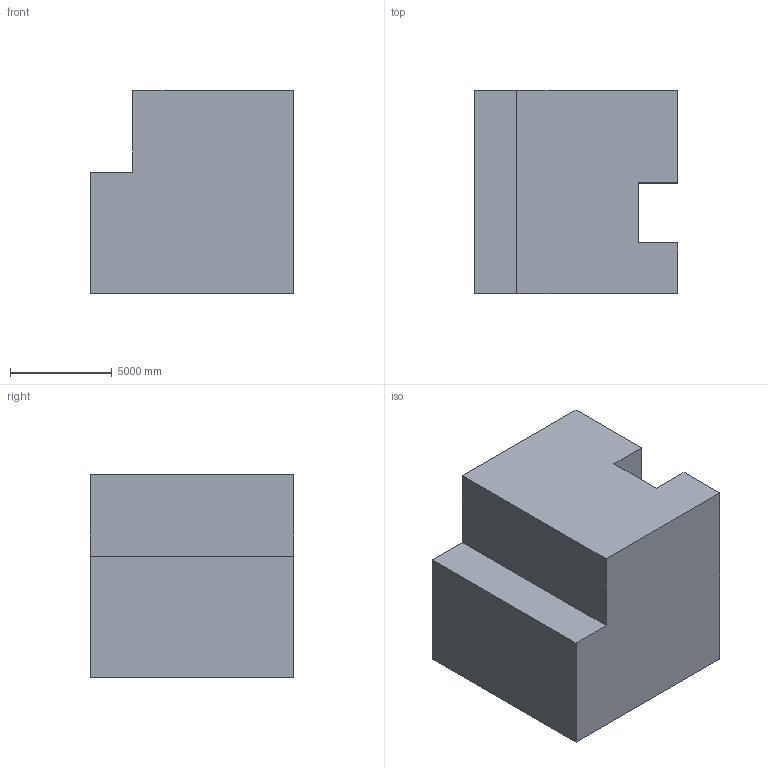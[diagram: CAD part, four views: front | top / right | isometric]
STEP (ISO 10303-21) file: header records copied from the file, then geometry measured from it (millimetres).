
FILE_DESCRIPTION (( 'STEP AP203' ), '1' );
FILE_NAME ('342.STEP', '2022-07-28T14:24:53', ( 'user' ), ( '' ), 'SwSTEP 2.0', 'SolidWorks 2021', '' );
FILE_SCHEMA (( 'CONFIG_CONTROL_DESIGN' ));
Length unit declared in the file: centimetre
Products named in the file (1): 342
Bounding box: 10000 x 10000 x 10000 mm (x, y, z)
Volume: 762699001111.3 mm3; surface area: 756900141.4 mm2
Topology: 1 solids, 1 shells, 22 faces, 54 edges, 36 vertices
Faces by surface type: plane 16, cylinder 6
Entity records: 733 total; most frequent: DIRECTION 114, CARTESIAN_POINT 113, ORIENTED_EDGE 108, EDGE_CURVE 54, VECTOR 40, LINE 40, AXIS2_PLACEMENT_3D 37, VERTEX_POINT 36
